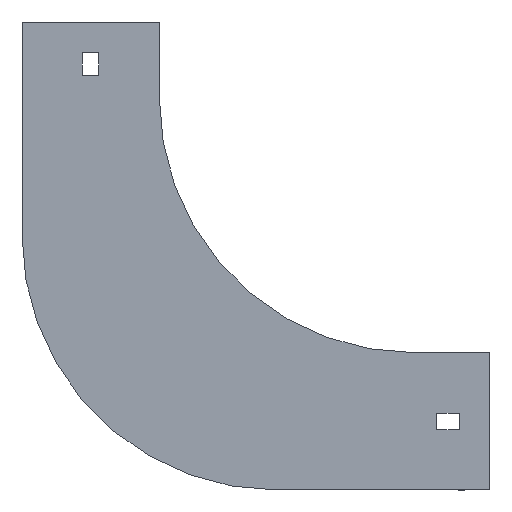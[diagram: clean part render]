
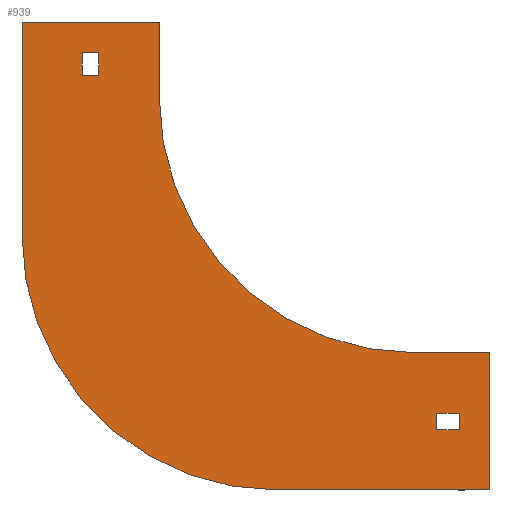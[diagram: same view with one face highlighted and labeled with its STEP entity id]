
A CAD part, front view. The second image highlights one B-rep face of the part: STEP entity #939.
In plain terms, the highlighted planar face has unit normal (0, -1, 0).
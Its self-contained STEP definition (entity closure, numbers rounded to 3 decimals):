
#4 = CARTESIAN_POINT ( 'NONE',  ( -54., 0., -154. ) ) ;
#16 = ORIENTED_EDGE ( 'NONE', *, *, #975, .F. ) ;
#37 = CARTESIAN_POINT ( 'NONE',  ( 0., 0., -100. ) ) ;
#40 = CARTESIAN_POINT ( 'NONE',  ( 30., 0., -154. ) ) ;
#47 = DIRECTION ( 'NONE',  ( 0., 0., 1. ) ) ;
#50 = ORIENTED_EDGE ( 'NONE', *, *, #987, .F. ) ;
#60 = LINE ( 'NONE', #501, #325 ) ;
#69 = EDGE_LOOP ( 'NONE', ( #131, #658, #533, #206 ) ) ;
#81 = EDGE_CURVE ( 'NONE', #494, #1230, #1314, .T. ) ;
#104 = CARTESIAN_POINT ( 'NONE',  ( 0., 0., 0. ) ) ;
#129 = EDGE_CURVE ( 'NONE', #541, #1357, #376, .T. ) ;
#131 = ORIENTED_EDGE ( 'NONE', *, *, #1207, .T. ) ;
#137 = CARTESIAN_POINT ( 'NONE',  ( 30., 0., -100. ) ) ;
#146 = CIRCLE ( 'NONE', #1293, 100. ) ;
#158 = DIRECTION ( 'NONE',  ( 0., 1., 0. ) ) ;
#179 = VERTEX_POINT ( 'NONE', #504 ) ;
#188 = EDGE_CURVE ( 'NONE', #1040, #541, #146, .T. ) ;
#206 = ORIENTED_EDGE ( 'NONE', *, *, #81, .T. ) ;
#211 = DIRECTION ( 'NONE',  ( 0., 0., -1. ) ) ;
#226 = DIRECTION ( 'NONE',  ( 1., 0., 0. ) ) ;
#255 = ORIENTED_EDGE ( 'NONE', *, *, #666, .F. ) ;
#279 = CARTESIAN_POINT ( 'NONE',  ( -123.75, 0., 9. ) ) ;
#300 = CARTESIAN_POINT ( 'NONE',  ( -123.75, 0., 18. ) ) ;
#303 = EDGE_CURVE ( 'NONE', #179, #634, #1205, .T. ) ;
#313 = VERTEX_POINT ( 'NONE', #137 ) ;
#325 = VECTOR ( 'NONE', #933, 1000. ) ;
#342 = DIRECTION ( 'NONE',  ( 0., 0., -1. ) ) ;
#343 = ORIENTED_EDGE ( 'NONE', *, *, #1388, .F. ) ;
#344 = VERTEX_POINT ( 'NONE', #905 ) ;
#361 = VECTOR ( 'NONE', #226, 1000. ) ;
#365 = DIRECTION ( 'NONE',  ( 1., 0., 0. ) ) ;
#376 = LINE ( 'NONE', #383, #1086 ) ;
#378 = ORIENTED_EDGE ( 'NONE', *, *, #430, .F. ) ;
#383 = CARTESIAN_POINT ( 'NONE',  ( -154., 0., -54. ) ) ;
#395 = VERTEX_POINT ( 'NONE', #997 ) ;
#397 = DIRECTION ( 'NONE',  ( 0., 0., 1. ) ) ;
#420 = FACE_OUTER_BOUND ( 'NONE', #1147, .T. ) ;
#426 = LINE ( 'NONE', #457, #538 ) ;
#430 = EDGE_CURVE ( 'NONE', #819, #179, #821, .T. ) ;
#437 = FACE_BOUND ( 'NONE', #906, .T. ) ;
#448 = CARTESIAN_POINT ( 'NONE',  ( 9., 0., -130.25 ) ) ;
#451 = LINE ( 'NONE', #1326, #1247 ) ;
#457 = CARTESIAN_POINT ( 'NONE',  ( 18., 0., -130.25 ) ) ;
#481 = AXIS2_PLACEMENT_3D ( 'NONE', #104, #1168, #211 ) ;
#486 = VERTEX_POINT ( 'NONE', #1244 ) ;
#494 = VERTEX_POINT ( 'NONE', #279 ) ;
#497 = VECTOR ( 'NONE', #734, 1000. ) ;
#501 = CARTESIAN_POINT ( 'NONE',  ( -100., 0., 30. ) ) ;
#503 = EDGE_CURVE ( 'NONE', #486, #344, #60, .T. ) ;
#504 = CARTESIAN_POINT ( 'NONE',  ( 9., 0., -130.25 ) ) ;
#511 = CARTESIAN_POINT ( 'NONE',  ( -54., 0., -54. ) ) ;
#512 = CARTESIAN_POINT ( 'NONE',  ( 18., 0., -123.75 ) ) ;
#523 = LINE ( 'NONE', #641, #1202 ) ;
#525 = CARTESIAN_POINT ( 'NONE',  ( 30., 0., -154. ) ) ;
#533 = ORIENTED_EDGE ( 'NONE', *, *, #537, .T. ) ;
#536 = CARTESIAN_POINT ( 'NONE',  ( 0., 0., 0. ) ) ;
#537 = EDGE_CURVE ( 'NONE', #1216, #494, #1380, .T. ) ;
#538 = VECTOR ( 'NONE', #545, 1000. ) ;
#541 = VERTEX_POINT ( 'NONE', #1394 ) ;
#545 = DIRECTION ( 'NONE',  ( 0., 0., 1. ) ) ;
#546 = EDGE_CURVE ( 'NONE', #1357, #486, #523, .T. ) ;
#552 = FACE_BOUND ( 'NONE', #69, .T. ) ;
#555 = CARTESIAN_POINT ( 'NONE',  ( -130.25, 0., 9. ) ) ;
#568 = CARTESIAN_POINT ( 'NONE',  ( 0., 0., -100. ) ) ;
#587 = VECTOR ( 'NONE', #365, 1000. ) ;
#608 = DIRECTION ( 'NONE',  ( 0., 0., -1. ) ) ;
#629 = CARTESIAN_POINT ( 'NONE',  ( 18., 0., -130.25 ) ) ;
#634 = VERTEX_POINT ( 'NONE', #629 ) ;
#638 = DIRECTION ( 'NONE',  ( 0., -1., 0. ) ) ;
#639 = CARTESIAN_POINT ( 'NONE',  ( 9., 0., -123.75 ) ) ;
#641 = CARTESIAN_POINT ( 'NONE',  ( -154., 0., 30. ) ) ;
#642 = VERTEX_POINT ( 'NONE', #525 ) ;
#646 = LINE ( 'NONE', #568, #361 ) ;
#658 = ORIENTED_EDGE ( 'NONE', *, *, #884, .T. ) ;
#666 = EDGE_CURVE ( 'NONE', #313, #642, #451, .T. ) ;
#670 = ORIENTED_EDGE ( 'NONE', *, *, #1151, .F. ) ;
#672 = DIRECTION ( 'NONE',  ( 0., 0., -1. ) ) ;
#700 = LINE ( 'NONE', #40, #1331 ) ;
#734 = DIRECTION ( 'NONE',  ( -1., 0., 0. ) ) ;
#765 = VECTOR ( 'NONE', #397, 1000. ) ;
#780 = VECTOR ( 'NONE', #880, 1000. ) ;
#781 = PLANE ( 'NONE',  #813 ) ;
#808 = CARTESIAN_POINT ( 'NONE',  ( 9., 0., -130.25 ) ) ;
#813 = AXIS2_PLACEMENT_3D ( 'NONE', #536, #638, #672 ) ;
#814 = ORIENTED_EDGE ( 'NONE', *, *, #1015, .F. ) ;
#819 = VERTEX_POINT ( 'NONE', #876 ) ;
#821 = LINE ( 'NONE', #808, #1393 ) ;
#843 = LINE ( 'NONE', #639, #497 ) ;
#849 = CARTESIAN_POINT ( 'NONE',  ( -130.25, 0., 9. ) ) ;
#860 = DIRECTION ( 'NONE',  ( 1., 0., 0. ) ) ;
#862 = ORIENTED_EDGE ( 'NONE', *, *, #303, .F. ) ;
#876 = CARTESIAN_POINT ( 'NONE',  ( 9., 0., -123.75 ) ) ;
#880 = DIRECTION ( 'NONE',  ( 1., 0., 0. ) ) ;
#884 = EDGE_CURVE ( 'NONE', #395, #1216, #1334, .T. ) ;
#888 = VERTEX_POINT ( 'NONE', #37 ) ;
#902 = CARTESIAN_POINT ( 'NONE',  ( -130.25, 0., 18. ) ) ;
#905 = CARTESIAN_POINT ( 'NONE',  ( -100., 0., 0. ) ) ;
#906 = EDGE_LOOP ( 'NONE', ( #16, #862, #378, #343 ) ) ;
#933 = DIRECTION ( 'NONE',  ( 0., 0., -1. ) ) ;
#939 = ADVANCED_FACE ( 'NONE', ( #552, #420, #437 ), #781, .T. ) ;
#966 = CIRCLE ( 'NONE', #481, 100. ) ;
#975 = EDGE_CURVE ( 'NONE', #634, #1371, #426, .T. ) ;
#987 = EDGE_CURVE ( 'NONE', #888, #313, #646, .T. ) ;
#997 = CARTESIAN_POINT ( 'NONE',  ( -130.25, 0., 18. ) ) ;
#1015 = EDGE_CURVE ( 'NONE', #344, #888, #966, .T. ) ;
#1020 = ORIENTED_EDGE ( 'NONE', *, *, #546, .F. ) ;
#1024 = VECTOR ( 'NONE', #1204, 1000. ) ;
#1040 = VERTEX_POINT ( 'NONE', #4 ) ;
#1057 = CARTESIAN_POINT ( 'NONE',  ( -154., 0., 30. ) ) ;
#1086 = VECTOR ( 'NONE', #47, 1000. ) ;
#1092 = ORIENTED_EDGE ( 'NONE', *, *, #188, .F. ) ;
#1119 = DIRECTION ( 'NONE',  ( 0., 0., 1. ) ) ;
#1124 = DIRECTION ( 'NONE',  ( -1., 0., 0. ) ) ;
#1147 = EDGE_LOOP ( 'NONE', ( #1020, #1403, #1092, #670, #255, #50, #814, #1310 ) ) ;
#1151 = EDGE_CURVE ( 'NONE', #642, #1040, #700, .T. ) ;
#1168 = DIRECTION ( 'NONE',  ( 0., -1., 0. ) ) ;
#1202 = VECTOR ( 'NONE', #860, 1000. ) ;
#1204 = DIRECTION ( 'NONE',  ( -1., 0., 0. ) ) ;
#1205 = LINE ( 'NONE', #448, #780 ) ;
#1207 = EDGE_CURVE ( 'NONE', #1230, #395, #1246, .T. ) ;
#1216 = VERTEX_POINT ( 'NONE', #300 ) ;
#1230 = VERTEX_POINT ( 'NONE', #849 ) ;
#1244 = CARTESIAN_POINT ( 'NONE',  ( -100., 0., 30. ) ) ;
#1246 = LINE ( 'NONE', #1276, #765 ) ;
#1247 = VECTOR ( 'NONE', #342, 1000. ) ;
#1273 = DIRECTION ( 'NONE',  ( 0., 0., -1. ) ) ;
#1276 = CARTESIAN_POINT ( 'NONE',  ( -130.25, 0., 9. ) ) ;
#1293 = AXIS2_PLACEMENT_3D ( 'NONE', #511, #158, #1119 ) ;
#1310 = ORIENTED_EDGE ( 'NONE', *, *, #503, .F. ) ;
#1314 = LINE ( 'NONE', #555, #1024 ) ;
#1326 = CARTESIAN_POINT ( 'NONE',  ( 30., 0., -100. ) ) ;
#1331 = VECTOR ( 'NONE', #1124, 1000. ) ;
#1334 = LINE ( 'NONE', #902, #587 ) ;
#1357 = VERTEX_POINT ( 'NONE', #1057 ) ;
#1367 = VECTOR ( 'NONE', #1273, 1000. ) ;
#1371 = VERTEX_POINT ( 'NONE', #512 ) ;
#1372 = CARTESIAN_POINT ( 'NONE',  ( -123.75, 0., 9. ) ) ;
#1380 = LINE ( 'NONE', #1372, #1367 ) ;
#1388 = EDGE_CURVE ( 'NONE', #1371, #819, #843, .T. ) ;
#1393 = VECTOR ( 'NONE', #608, 1000. ) ;
#1394 = CARTESIAN_POINT ( 'NONE',  ( -154., 0., -54. ) ) ;
#1403 = ORIENTED_EDGE ( 'NONE', *, *, #129, .F. ) ;
